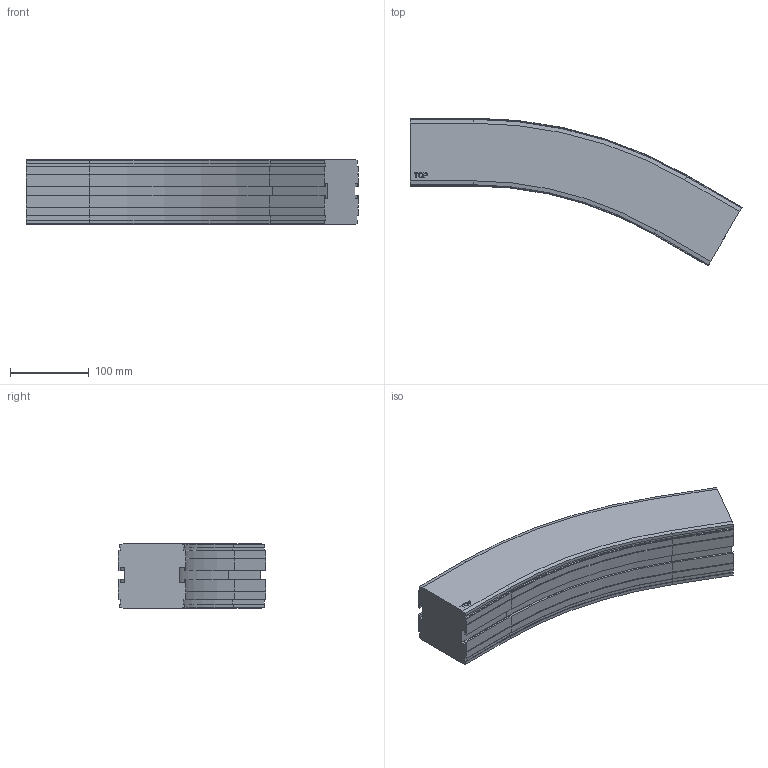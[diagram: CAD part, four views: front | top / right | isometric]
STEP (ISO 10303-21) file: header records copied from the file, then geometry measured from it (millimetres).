
FILE_DESCRIPTION((''),'2;1');
FILE_NAME('C:\Vault Klient\Projekt\Koncept konstruktion\Serie 830 Balk\830-5290.stp','2009-11-27T10:05:27',('Mathias'),(''),'Autodesk Inventor 2010','Autodesk Inventor 2010','');
FILE_SCHEMA(('AUTOMOTIVE_DESIGN { 1 0 10303 214 1 1 1 1 }'));
Length unit declared in the file: millimetre
Products named in the file (1): 830-5290
Bounding box: 420.78 x 187.23 x 81.5 mm (x, y, z)
Volume: 2803649.3 mm3; surface area: 185647.2 mm2
Topology: 1 solids, 1 shells, 169 faces, 446 edges, 284 vertices
Faces by surface type: plane 109, cylinder 30, bspline 14, cone 12, torus 4
Entity records: 5295 total; most frequent: CARTESIAN_POINT 1094, ORIENTED_EDGE 892, DIRECTION 802, EDGE_CURVE 446, VECTOR 346, LINE 346, VERTEX_POINT 284, AXIS2_PLACEMENT_3D 228
